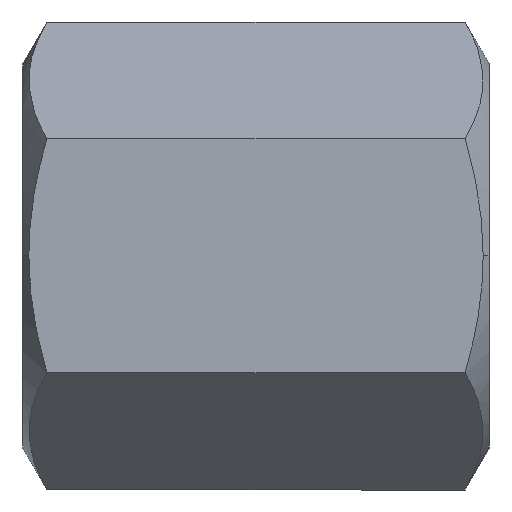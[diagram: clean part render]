
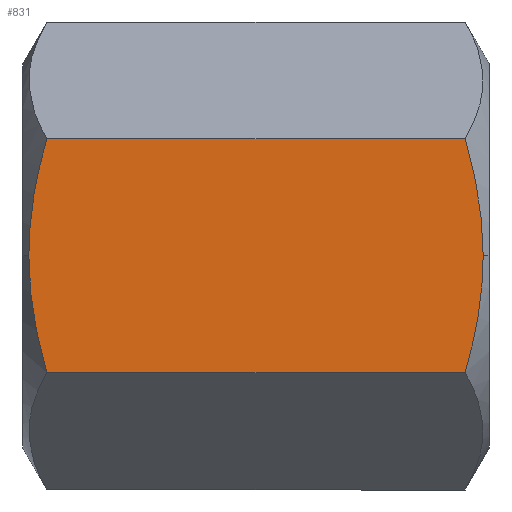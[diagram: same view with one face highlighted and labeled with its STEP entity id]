
A CAD part, top view. The second image highlights one B-rep face of the part: STEP entity #831.
In plain terms, the highlighted planar face has unit normal (0, 0, 1) as drawn and (1, 0, 0) by its records, which use the part's own axes.
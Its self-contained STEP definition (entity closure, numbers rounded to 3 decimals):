
#143=CARTESIAN_POINT('',(5.,0.,5.606));
#144=VERTEX_POINT('',#143);
#198=CARTESIAN_POINT('',(5.,-2.887,5.159));
#199=VERTEX_POINT('',#198);
#213=CARTESIAN_POINT('',(5.,0.,5.606));
#214=CARTESIAN_POINT('',(5.,-1.34,5.606));
#215=CARTESIAN_POINT('',(5.,-2.887,5.159));
#223=(BOUNDED_CURVE()B_SPLINE_CURVE(2,(#213,#214,#215),.UNSPECIFIED.,.F.,.U.)B_SPLINE_CURVE_WITH_KNOTS((3,3),(5.033,8.337),.UNSPECIFIED.)CURVE()GEOMETRIC_REPRESENTATION_ITEM()RATIONAL_B_SPLINE_CURVE((1.2,1.2,1.114))REPRESENTATION_ITEM(''));
#224=EDGE_CURVE('',#144,#199,#223,.T.);
#234=CARTESIAN_POINT('',(5.,0.,-5.606));
#235=VERTEX_POINT('',#234);
#244=CARTESIAN_POINT('',(5.,-2.887,-5.159));
#245=VERTEX_POINT('',#244);
#246=CARTESIAN_POINT('',(5.,-2.887,-5.159));
#247=CARTESIAN_POINT('',(5.,-1.34,-5.606));
#248=CARTESIAN_POINT('',(5.,0.,-5.606));
#256=(BOUNDED_CURVE()B_SPLINE_CURVE(2,(#246,#247,#248),.UNSPECIFIED.,.F.,.U.)B_SPLINE_CURVE_WITH_KNOTS((3,3),(1.73,5.033),.UNSPECIFIED.)CURVE()GEOMETRIC_REPRESENTATION_ITEM()RATIONAL_B_SPLINE_CURVE((1.114,1.2,1.2))REPRESENTATION_ITEM(''));
#257=EDGE_CURVE('',#245,#235,#256,.T.);
#632=CARTESIAN_POINT('',(5.,2.887,-5.159));
#633=VERTEX_POINT('',#632);
#647=CARTESIAN_POINT('',(5.,0.,-5.606));
#648=CARTESIAN_POINT('',(5.,1.34,-5.606));
#649=CARTESIAN_POINT('',(5.,2.887,-5.159));
#657=(BOUNDED_CURVE()B_SPLINE_CURVE(2,(#647,#648,#649),.UNSPECIFIED.,.F.,.U.)B_SPLINE_CURVE_WITH_KNOTS((3,3),(5.033,8.337),.UNSPECIFIED.)CURVE()GEOMETRIC_REPRESENTATION_ITEM()RATIONAL_B_SPLINE_CURVE((1.2,1.2,1.114))REPRESENTATION_ITEM(''));
#658=EDGE_CURVE('',#235,#633,#657,.T.);
#669=CARTESIAN_POINT('',(5.,2.887,5.159));
#670=VERTEX_POINT('',#669);
#671=CARTESIAN_POINT('',(5.,2.887,5.159));
#672=CARTESIAN_POINT('',(5.,1.34,5.606));
#673=CARTESIAN_POINT('',(5.,0.,5.606));
#681=(BOUNDED_CURVE()B_SPLINE_CURVE(2,(#671,#672,#673),.UNSPECIFIED.,.F.,.U.)B_SPLINE_CURVE_WITH_KNOTS((3,3),(1.73,5.033),.UNSPECIFIED.)CURVE()GEOMETRIC_REPRESENTATION_ITEM()RATIONAL_B_SPLINE_CURVE((1.114,1.2,1.2))REPRESENTATION_ITEM(''));
#682=EDGE_CURVE('',#670,#144,#681,.T.);
#802=CARTESIAN_POINT('',(5.,-2.887,5.159));
#803=DIRECTION('',(0.0,0.0,-1.0));
#804=VECTOR('',#803,10.318);
#805=LINE('',#802,#804);
#806=EDGE_CURVE('',#199,#245,#805,.T.);
#813=CARTESIAN_POINT('',(5.,-2.887,0.0));
#814=DIRECTION('',(1.0,0.0,0.0));
#815=DIRECTION('',(0.0,0.0,-1.0));
#816=AXIS2_PLACEMENT_3D('',#813,#814,#815);
#817=PLANE('',#816);
#818=ORIENTED_EDGE('',*,*,#257,.T.);
#819=ORIENTED_EDGE('',*,*,#658,.T.);
#820=CARTESIAN_POINT('',(5.,2.887,5.159));
#821=DIRECTION('',(0.0,0.0,-1.0));
#822=VECTOR('',#821,10.318);
#823=LINE('',#820,#822);
#824=EDGE_CURVE('',#670,#633,#823,.T.);
#825=ORIENTED_EDGE('',*,*,#824,.F.);
#826=ORIENTED_EDGE('',*,*,#682,.T.);
#827=ORIENTED_EDGE('',*,*,#224,.T.);
#828=ORIENTED_EDGE('',*,*,#806,.T.);
#829=EDGE_LOOP('',(#818,#819,#825,#826,#827,#828));
#830=FACE_OUTER_BOUND('',#829,.T.);
#831=ADVANCED_FACE('',(#830),#817,.T.);
